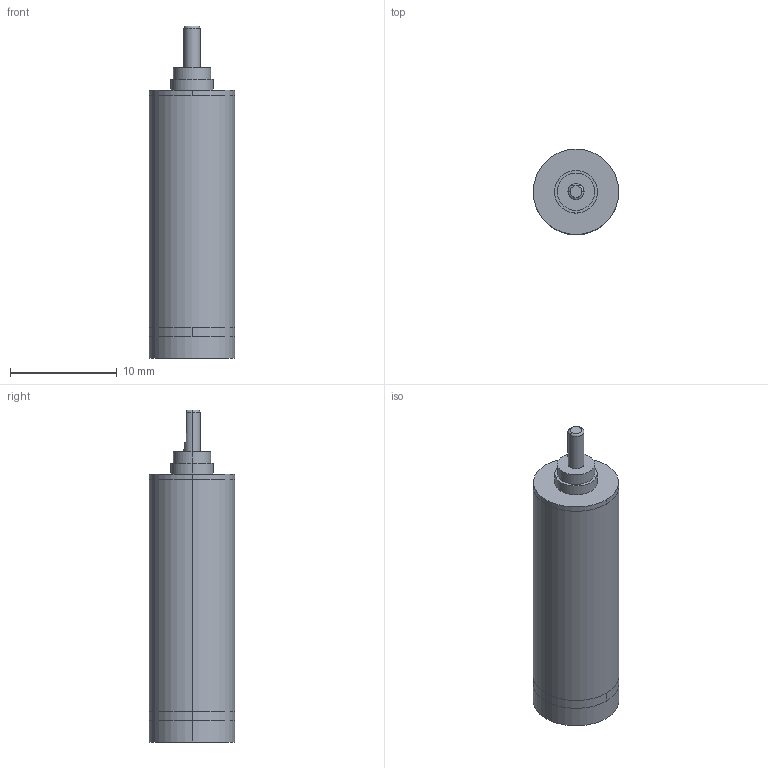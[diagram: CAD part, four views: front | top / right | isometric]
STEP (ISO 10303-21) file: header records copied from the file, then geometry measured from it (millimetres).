
FILE_DESCRIPTION (( 'STEP AP203' ), '1' );
FILE_NAME ('IG-08(II)-6stage.STEP', '2023-03-23T01:47:21', ( '' ), ( '' ), 'SwSTEP 2.0', 'SolidWorks 2019', '' );
FILE_SCHEMA (( 'CONFIG_CONTROL_DESIGN' ));
Length unit declared in the file: millimetre
Products named in the file (1): IG-08(II)-6stage
Bounding box: 8 x 8 x 31.1 mm (x, y, z)
Volume: 1337.5 mm3; surface area: 1047.7 mm2
Topology: 3 solids, 3 shells, 35 faces, 66 edges, 43 vertices
Faces by surface type: cylinder 18, plane 14, torus 3
Entity records: 982 total; most frequent: DIRECTION 179, CARTESIAN_POINT 159, ORIENTED_EDGE 132, AXIS2_PLACEMENT_3D 79, EDGE_CURVE 66, CIRCLE 43, VERTEX_POINT 43, EDGE_LOOP 41
